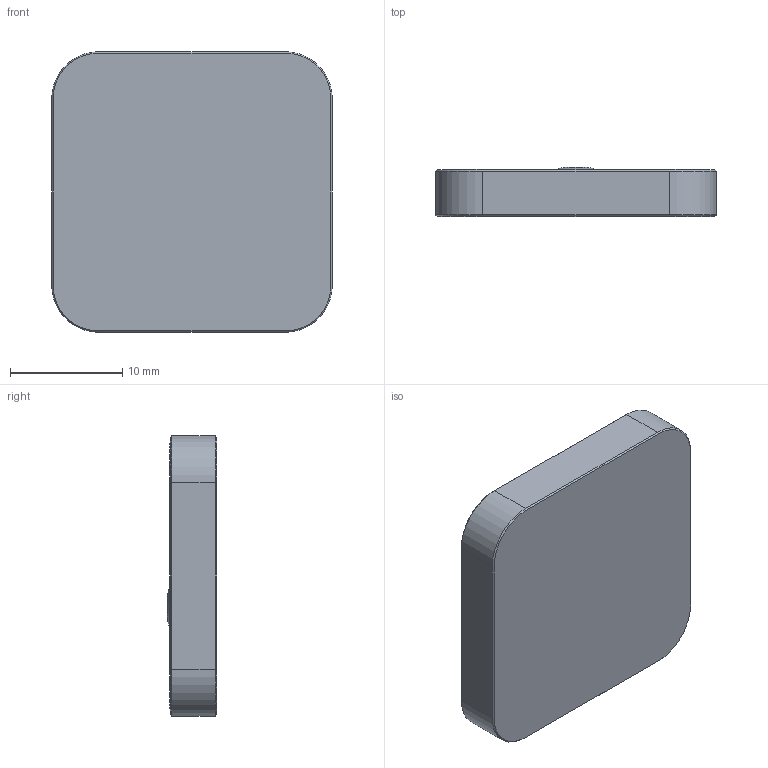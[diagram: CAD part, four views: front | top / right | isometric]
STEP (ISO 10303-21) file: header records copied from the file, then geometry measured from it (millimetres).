
FILE_DESCRIPTION(('HOOPS Exchange Step'),'2;1');
FILE_NAME('/tmp/3d4d9839cf29966099f85fbb95df941b20220321-1-1gcduw.SLDPRT.step','2022-03-21T15:27:01+00:00',('root'),('Unknown organisation'),'HOOPS Exchange 2021.0','HOOPS Exchange','Unknown authorisation');
FILE_SCHEMA( ('AUTOMOTIVE_DESIGN { 1 0 10303 214 1 1 1 1 }') );
Length unit declared in the file: millimetre
Products named in the file (2): Défaut; 3d4d9839cf29966099f85fbb95df941b20220321-1-1gcduw
Assembly tree (1 placements, depth 2):
  3d4d9839cf29966099f85fbb95df941b20220321-1-1gcduw
    Défaut
Bounding box: 25.04 x 4.39 x 25.04 mm (x, y, z)
Volume: 2555.3 mm3; surface area: 1600.1 mm2
Topology: 1 solids, 1 shells, 39 faces, 89 edges, 55 vertices
Faces by surface type: plane 21, cylinder 9, cone 9
Full cylindrical faces by diameter (mm): 4.5 x1
Entity records: 1163 total; most frequent: DIRECTION 204, CARTESIAN_POINT 186, ORIENTED_EDGE 178, EDGE_CURVE 89, AXIS2_PLACEMENT_3D 73, VECTOR 58, LINE 58, VERTEX_POINT 55
